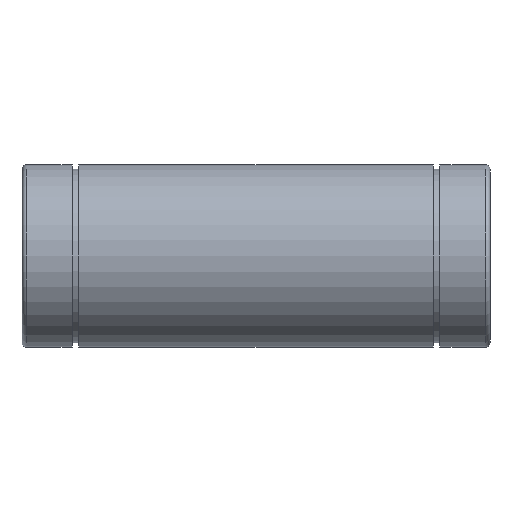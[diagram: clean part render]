
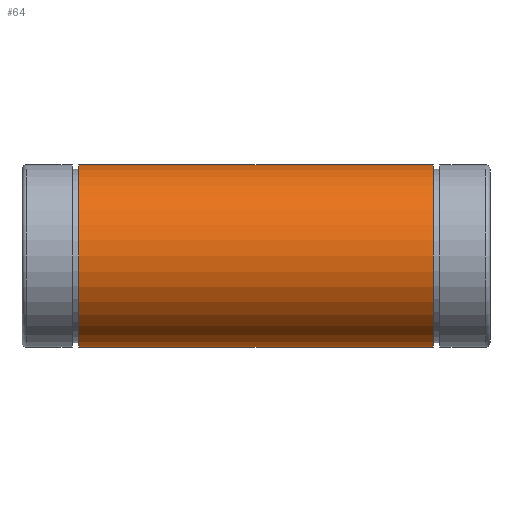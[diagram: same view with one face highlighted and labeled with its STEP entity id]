
A CAD part, front view. The second image highlights one B-rep face of the part: STEP entity #64.
In plain terms, the highlighted cylindrical face has radius 30 mm (diameter 60 mm), a full revolution.
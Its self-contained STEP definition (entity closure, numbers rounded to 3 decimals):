
#64 = ADVANCED_FACE( '', ( #139, #140 ), #141, .T. );
#139 = FACE_OUTER_BOUND( '', #218, .T. );
#140 = FACE_OUTER_BOUND( '', #219, .T. );
#141 = CYLINDRICAL_SURFACE( '', #220, 30. );
#218 = EDGE_LOOP( '', ( #313 ) );
#219 = EDGE_LOOP( '', ( #314 ) );
#220 = AXIS2_PLACEMENT_3D( '', #315, #316, #317 );
#313 = ORIENTED_EDGE( '', *, *, #356, .F. );
#314 = ORIENTED_EDGE( '', *, *, #361, .T. );
#315 = CARTESIAN_POINT( '', ( 77., 0., 0. ) );
#316 = DIRECTION( '', ( -1., 0., 0. ) );
#317 = DIRECTION( '', ( 0., 1., 0. ) );
#356 = EDGE_CURVE( '', #393, #393, #394, .T. );
#361 = EDGE_CURVE( '', #401, #401, #402, .T. );
#393 = VERTEX_POINT( '', #447 );
#394 = CIRCLE( '', #448, 30. );
#401 = VERTEX_POINT( '', #455 );
#402 = CIRCLE( '', #456, 30. );
#447 = CARTESIAN_POINT( '', ( 18.6, 30., 0. ) );
#448 = AXIS2_PLACEMENT_3D( '', #501, #502, #503 );
#455 = CARTESIAN_POINT( '', ( 135.4, 30., 0. ) );
#456 = AXIS2_PLACEMENT_3D( '', #510, #511, #512 );
#501 = CARTESIAN_POINT( '', ( 18.6, 0., 0. ) );
#502 = DIRECTION( '', ( -1., 0., 0. ) );
#503 = DIRECTION( '', ( 0., 1., 0. ) );
#510 = CARTESIAN_POINT( '', ( 135.4, 0., 0. ) );
#511 = DIRECTION( '', ( -1., 0., 0. ) );
#512 = DIRECTION( '', ( 0., 1., 0. ) );
